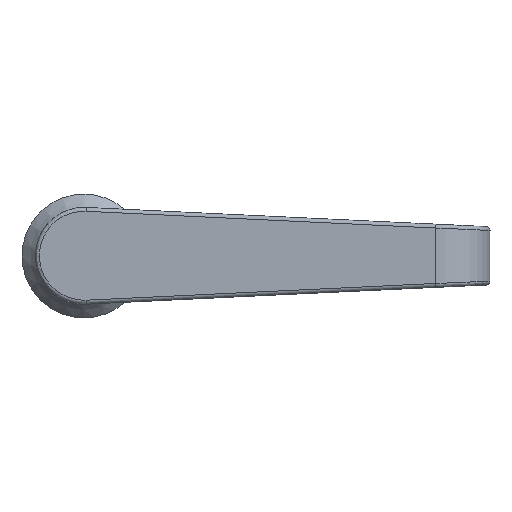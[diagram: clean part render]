
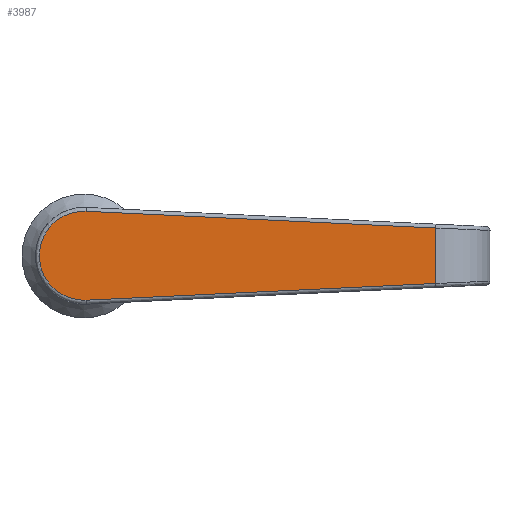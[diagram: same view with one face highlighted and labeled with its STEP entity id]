
A CAD part, top view. The second image highlights one B-rep face of the part: STEP entity #3987.
In plain terms, the highlighted planar face has unit normal (0, 0, 1) as drawn and (0, 1, 0) by its records, which use the part's own axes.
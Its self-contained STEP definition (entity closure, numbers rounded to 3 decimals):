
#3904=CARTESIAN_POINT('',(-0.549,0.0,-11.487));
#3905=VERTEX_POINT('',#3904);
#3913=CARTESIAN_POINT('',(-0.549,0.0,11.487));
#3914=VERTEX_POINT('',#3913);
#3915=CARTESIAN_POINT('',(0.0,0.0,0.0));
#3916=DIRECTION('',(0.0,1.0,0.0));
#3917=DIRECTION('',(-0.048,0.0,0.999));
#3918=AXIS2_PLACEMENT_3D('',#3915,#3916,#3917);
#3919=CIRCLE('',#3918,11.5);
#3920=EDGE_CURVE('',#3914,#3905,#3919,.T.);
#3937=CARTESIAN_POINT('',(-91.0,0.0,7.167));
#3938=VERTEX_POINT('',#3937);
#3939=CARTESIAN_POINT('',(-0.549,0.0,11.487));
#3940=DIRECTION('',(-0.999,0.0,-0.048));
#3941=VECTOR('',#3940,90.555);
#3942=LINE('',#3939,#3941);
#3943=EDGE_CURVE('',#3914,#3938,#3942,.T.);
#3964=CARTESIAN_POINT('',(0.0,0.0,0.0));
#3965=DIRECTION('',(0.0,-1.0,0.0));
#3966=DIRECTION('',(0.0,0.0,-1.0));
#3967=AXIS2_PLACEMENT_3D('',#3964,#3965,#3966);
#3968=PLANE('',#3967);
#3969=CARTESIAN_POINT('',(-91.0,0.0,-7.167));
#3970=VERTEX_POINT('',#3969);
#3971=CARTESIAN_POINT('',(-91.0,0.0,-7.167));
#3972=DIRECTION('',(0.0,0.0,1.0));
#3973=VECTOR('',#3972,14.335);
#3974=LINE('',#3971,#3973);
#3975=EDGE_CURVE('',#3970,#3938,#3974,.T.);
#3976=ORIENTED_EDGE('',*,*,#3975,.T.);
#3977=ORIENTED_EDGE('',*,*,#3943,.F.);
#3978=ORIENTED_EDGE('',*,*,#3920,.T.);
#3979=CARTESIAN_POINT('',(-91.0,0.0,-7.167));
#3980=DIRECTION('',(0.999,0.0,-0.048));
#3981=VECTOR('',#3980,90.555);
#3982=LINE('',#3979,#3981);
#3983=EDGE_CURVE('',#3970,#3905,#3982,.T.);
#3984=ORIENTED_EDGE('',*,*,#3983,.F.);
#3985=EDGE_LOOP('',(#3976,#3977,#3978,#3984));
#3986=FACE_OUTER_BOUND('',#3985,.T.);
#3987=ADVANCED_FACE('',(#3986),#3968,.F.);
